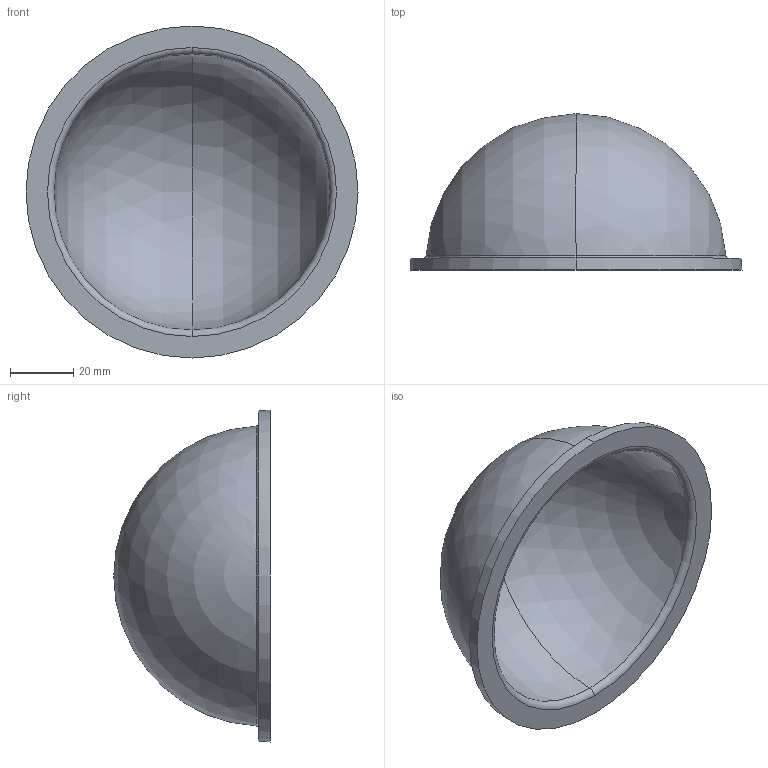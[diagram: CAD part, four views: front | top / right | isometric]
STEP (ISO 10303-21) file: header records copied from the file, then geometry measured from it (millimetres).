
FILE_DESCRIPTION (( 'STEP AP214' ), '1' );
FILE_NAME ('WTE4-P-DOME-R4.STEP', '2018-10-16T22:46:07', ( '' ), ( '' ), 'SwSTEP 2.0', 'SolidWorks 2016', '' );
FILE_SCHEMA (( 'AUTOMOTIVE_DESIGN' ));
Length unit declared in the file: millimetre
Products named in the file (1): WTE4-P-DOME-R4
Bounding box: 104.66 x 49.3 x 104.66 mm (x, y, z)
Volume: 56235.1 mm3; surface area: 31032.1 mm2
Topology: 1 solids, 1 shells, 12 faces, 26 edges, 16 vertices
Faces by surface type: torus 4, sphere 4, cone 2, plane 2
Entity records: 344 total; most frequent: DIRECTION 68, CARTESIAN_POINT 49, ORIENTED_EDGE 44, AXIS2_PLACEMENT_3D 33, EDGE_CURVE 22, CIRCLE 20, EDGE_LOOP 14, VERTEX_POINT 14
